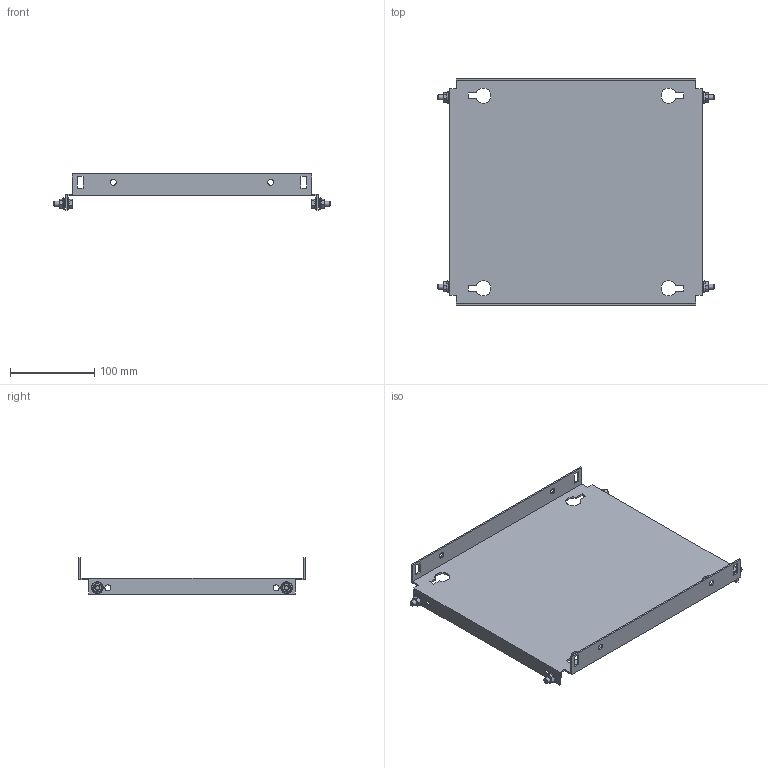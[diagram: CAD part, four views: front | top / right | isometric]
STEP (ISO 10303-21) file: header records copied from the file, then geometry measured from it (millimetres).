
FILE_DESCRIPTION(('Open CASCADE Model'),'2;1');
FILE_NAME('Open CASCADE Shape Model','2025-02-20T13:24:40',('Author'),( 'Open CASCADE'),'Open CASCADE STEP processor 7.8','Open CASCADE 7.8' ,'Unknown');
FILE_SCHEMA(('AUTOMOTIVE_DESIGN { 1 0 10303 214 1 1 1 1 }'));
Length unit declared in the file: millimetre
Products named in the file (4): Compound1; Solid1; Solid2; Solid3
Assembly tree (9 placements, depth 2):
  Compound1
    Solid1
    Solid2  x4
    Solid3  x4
Bounding box: 328 x 269 x 43 mm (x, y, z)
Volume: 206703.7 mm3; surface area: 209805.8 mm2
Topology: 9 solids, 9 shells, 306 faces, 746 edges, 462 vertices
Faces by surface type: plane 150, cone 68, bspline 48, cylinder 28, torus 12
Full cylindrical faces by diameter (mm): 5 x4, 6 x8, 7 x12
Entity records: 4844 total; most frequent: CARTESIAN_POINT 1361, ORIENTED_EDGE 742, DIRECTION 628, EDGE_CURVE 371, VERTEX_POINT 240, LINE 216, VECTOR 216, AXIS2_PLACEMENT_3D 206
